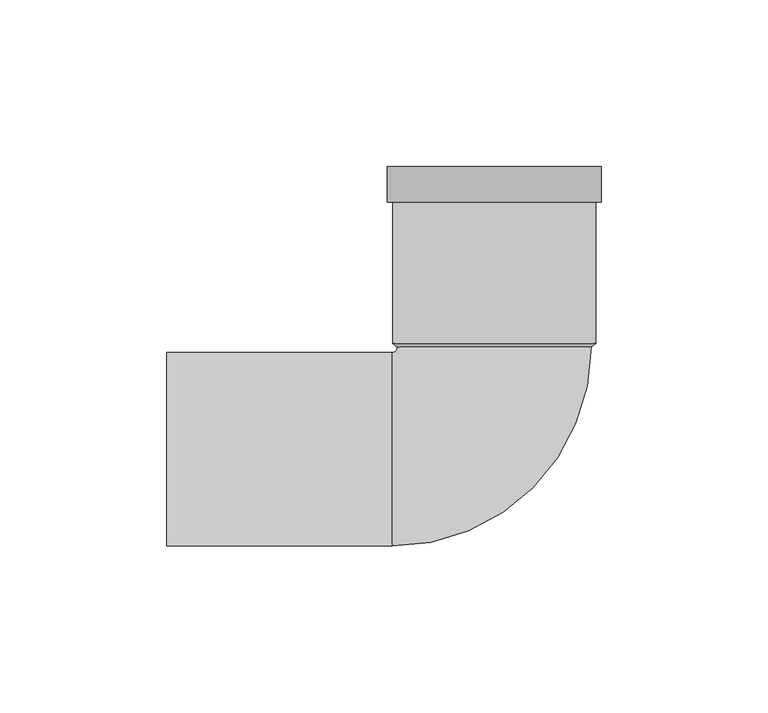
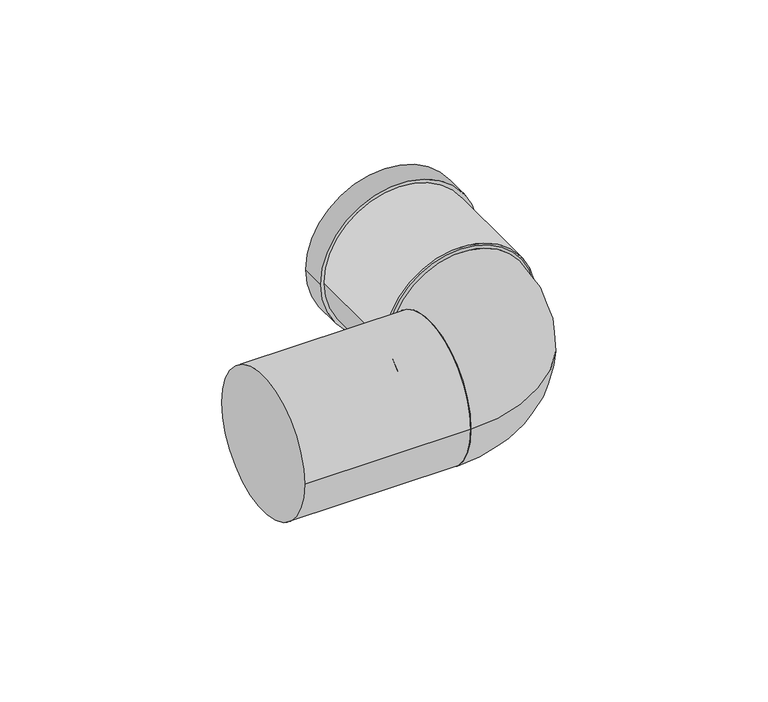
"""IFC4 building model written with IfcOpenShell, lengths in millimetres: pipe fitting geometry, Superdrain SKB Bend : Superdrain SKB Bend."""

from ifc_helpers import new_model, si_unit, point, frame, origin, origin_2d, place, context, project, spatial, polyline, circle_curve, ellipse_curve, trimmed, segment, composite_curve, outline, extrude, source, transform, mapped, element, save
from ifc_brep_helpers import plane_surface, revolved_surface, advanced_brep


def pipe_fitting_9059359d(model_context):
    return source(origin(), model_context, "Body", "SolidModel", [
        advanced_brep(
        [(29.0, 30.6, 0.0), (-29.0, 30.6, 0.0), (-30.6, -29.0, 0.0), (-30.6, 29.0, 0.0)],
        [
            (0, 1, circle_curve(frame((0.0, 30.6, 0.0), z_axis=(0.0, 1.0, 0.0), x_axis=(-1.0, 0.0, 0.0)), 29.0)),
            (1, 0, circle_curve(frame((0.0, 30.6, 0.0), z_axis=(0.0, 1.0, 0.0), x_axis=(-1.0, 0.0, 0.0)), 29.0)),
            (2, 3, circle_curve(frame((-30.6, 0.0, 0.0), z_axis=(-1.0, 0.0, 0.0), x_axis=(0.0, 1.0, 0.0)), 29.0)),
            (3, 2, circle_curve(frame((-30.6, 0.0, 0.0), z_axis=(-1.0, 0.0, 0.0), x_axis=(0.0, 1.0, 0.0)), 29.0)),
            (3, 1, circle_curve(frame((-30.6, 30.6, 0.0), z_axis=(0.0, 0.0, 1.0), x_axis=(1.0, 0.0, 0.0)), 1.6)),
            (0, 2, circle_curve(frame((-30.6, 30.6, 0.0), z_axis=(0.0, 0.0, -1.0), x_axis=(1.0, 0.0, 0.0)), 59.6)),
        ],
        [
            plane_surface(frame((0.0, 30.6, 0.0), z_axis=(0.0, 1.0, 0.0), x_axis=(0.0, 0.0, -1.0))),
            plane_surface(frame((-30.6, 0.0, 0.0), z_axis=(-1.0, 0.0, 0.0), x_axis=(0.0, 0.0, -1.0))),
            revolved_surface(trimmed(ellipse_curve(frame((0.0, 30.6, 0.0), z_axis=(0.0, -1.0, 0.0), x_axis=(-1.0, 0.0, 0.0)), 29.0, 29.0), [point((-29.0, 30.6, 0.0))], [point((29.0, 30.6, 0.0))], True, "CARTESIAN"), (-30.6, 30.6, 0.0), (0.0, 0.0, 1.0)),
            revolved_surface(trimmed(ellipse_curve(frame((0.0, 30.6, 0.0), z_axis=(0.0, -1.0, 0.0), x_axis=(-1.0, 0.0, 0.0)), 29.0, 29.0), [point((29.0, 30.6, 0.0))], [point((-29.0, 30.6, 0.0))], True, "CARTESIAN"), (-30.6, 30.6, 0.0), (0.0, 0.0, 1.0)),
        ],
        [
            (0, [[1, 2]]),
            (1, [[3, 4]]),
            (2, [[-4, 5, -1, 6]]),
            (3, [[-3, -6, -2, -5]]),
        ],
    ),
        extrude(outline(composite_curve([segment(trimmed(circle_curve(origin_2d(), 30.45), [point((0.0, 30.45))], [point((0.0, -30.45))], False, "CARTESIAN"), True, "CONTINUOUS"), segment(trimmed(circle_curve(origin_2d(), 30.45), [point((0.0, -30.45))], [point((0.0, 30.45))], False, "CARTESIAN"), True, "CONTINUOUS")], self_intersect=False), holes=[composite_curve([segment(trimmed(circle_curve(origin_2d(), 29.0), [point((0.0, 29.0))], [point((0.0, -29.0))], True, "CARTESIAN"), True, "CONTINUOUS"), segment(trimmed(circle_curve(origin_2d(), 29.0), [point((0.0, -29.0))], [point((0.0, 29.0))], True, "CARTESIAN"), True, "CONTINUOUS")], self_intersect=False)]), frame((0.0, 31.6, 0.0), z_axis=(0.0, 1.0, 0.0), x_axis=(0.0, 0.0, 1.0)), (0.0, 0.0, 1.0), 53.0),
        extrude(outline(composite_curve([segment(trimmed(circle_curve(origin_2d(), 31.9725), [point((0.0, -31.9725))], [point((0.0, 31.9725))], False, "CARTESIAN"), True, "CONTINUOUS"), segment(trimmed(circle_curve(origin_2d(), 31.9725), [point((0.0, 31.9725))], [point((0.0, -31.9725))], False, "CARTESIAN"), True, "CONTINUOUS")], self_intersect=False), holes=[composite_curve([segment(trimmed(circle_curve(origin_2d(), 29.0), [point((0.0, -29.0))], [point((0.0, 29.0))], True, "CARTESIAN"), True, "CONTINUOUS"), segment(trimmed(circle_curve(origin_2d(), 29.0), [point((0.0, 29.0))], [point((0.0, -29.0))], True, "CARTESIAN"), True, "CONTINUOUS")], self_intersect=False)]), frame((0.0, 74.0, 0.0), z_axis=(0.0, 1.0, 0.0), x_axis=(0.0, 0.0, 1.0)), (0.0, 0.0, 1.0), 10.6),
        advanced_brep(
        [(30.45, 31.6, 0.0), (-30.45, 31.6, 0.0), (29.0, 30.6, 0.0), (-29.0, 30.6, 0.0)],
        [
            (0, 1, circle_curve(frame((0.0, 31.6, 0.0), z_axis=(0.0, 1.0, 0.0), x_axis=(1.0, 0.0, 0.0)), 30.45)),
            (1, 0, circle_curve(frame((0.0, 31.6, 0.0), z_axis=(0.0, 1.0, 0.0), x_axis=(-1.0, 0.0, 0.0)), 30.45)),
            (2, 3, circle_curve(frame((0.0, 30.6, 0.0), z_axis=(0.0, -1.0, 0.0), x_axis=(-1.0, 0.0, 0.0)), 29.0)),
            (3, 2, circle_curve(frame((0.0, 30.6, 0.0), z_axis=(0.0, -1.0, 0.0), x_axis=(1.0, 0.0, 0.0)), 29.0)),
            (3, 1),
            (0, 2),
        ],
        [
            plane_surface(frame((0.0, 31.6, 0.0), z_axis=(0.0, 1.0, 0.0), x_axis=(0.0, 0.0, -1.0))),
            plane_surface(frame((0.0, 30.6, 0.0), z_axis=(0.0, -1.0, 0.0), x_axis=(0.0, 0.0, -1.0))),
            revolved_surface(polyline([(-28.999999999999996, 30.6, 0.0), (-30.45, 31.6, 0.0)]), (0.0, 10.6, 0.0), (0.0, 1.0, 0.0)),
            revolved_surface(polyline([(28.999999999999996, 30.6, 0.0), (30.45, 31.6, 0.0)]), (0.0, 10.6, 0.0), (0.0, 1.0, 0.0)),
        ],
        [
            (0, [[1, 2]]),
            (1, [[3, 4]]),
            (2, [[-4, 5, -1, 6]]),
            (3, [[-3, -6, -2, -5]]),
        ],
    ),
        extrude(outline(composite_curve([segment(trimmed(circle_curve(origin_2d(), 29.0), [point((-29.0, 0.0))], [point((29.0, 0.0))], False, "CARTESIAN"), True, "CONTINUOUS"), segment(trimmed(circle_curve(origin_2d(), 29.0), [point((29.0, 0.0))], [point((-29.0, 0.0))], False, "CARTESIAN"), True, "CONTINUOUS")], self_intersect=False)), frame((-98.0, 0.0, 0.0), z_axis=(1.0, 0.0, 0.0), x_axis=(0.0, 1.0, 0.0)), (0.0, 0.0, 1.0), 67.4),
    ])


if __name__ == "__main__":
    model = new_model("IFC4")
    model_context = context("Model", 3, world=origin())
    ifc_project = project(units=[si_unit("LENGTHUNIT", "METRE", prefix="MILLI")], contexts=[model_context])
    site = spatial("IfcSite", under=ifc_project)
    building = spatial("IfcBuilding", under=site)
    placement = place(None, origin())
    pipe_fitting_shape = pipe_fitting_9059359d(model_context)
    element("IfcPipeFitting", 1, ObjectType="Superdrain SKB Bend : Superdrain SKB Bend", at=placement, inside=building, context=model_context, shape_type="MappedRepresentation", body=[
        mapped(pipe_fitting_shape, transform((0.0, 0.0, 0.0), x_axis=(1.0, 0.0, 0.0), y_axis=(0.0, 1.0, 0.0), z_axis=(0.0, 0.0, 1.0))),
    ])
    save(model, "model.ifc")
